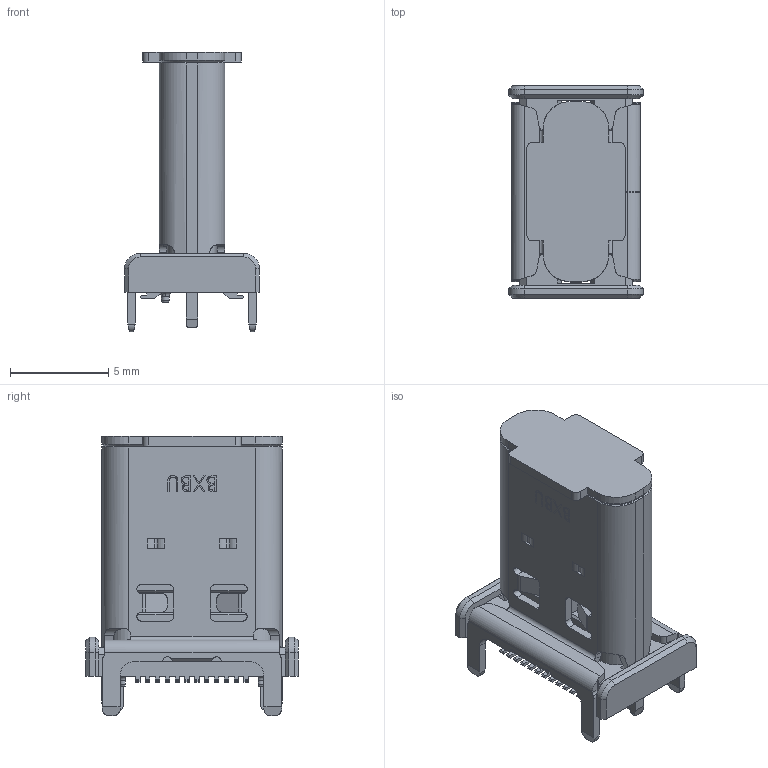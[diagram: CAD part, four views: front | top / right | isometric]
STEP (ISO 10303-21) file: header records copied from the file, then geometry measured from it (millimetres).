
FILE_DESCRIPTION((' '),'2;1');
FILE_NAME( 'U5159-24PN12.0L.stp', '2026-05-12T10:26:12', (' '), ('--- ---'), ' V2026.1 Dec 31 2025', ' 2026 (c)', ' ');
FILE_SCHEMA(('AP242_MANAGED_MODEL_BASED_3D_ENGINEERING_MIM_LF { 1 0 10303 442 1 1 4 }'));
Length unit declared in the file: millimetre
Products named in the file (5): _H12_ASM_ASM_ASM_I-U424120A1-E(2)_I-U424120A1-E; CAP_I-U424120A1-E(2)_I-U424120A1-E; I-U424120A1-E(2)_I-U424120A1-E; U5159-24PN12.0L(2); U5159-24PN12.0L
Assembly tree (4 placements, depth 4):
  U5159-24PN12.0L
    U5159-24PN12.0L(2)
      I-U424120A1-E(2)_I-U424120A1-E
        _H12_ASM_ASM_ASM_I-U424120A1-E(2)_I-U424120A1-E
        CAP_I-U424120A1-E(2)_I-U424120A1-E
Bounding box: 6.84 x 10.8 x 14.2 mm (x, y, z)
Volume: 236.4 mm3; surface area: 1184.9 mm2
Topology: 3 solids, 7 shells, 1473 faces, 4099 edges, 2667 vertices
Faces by surface type: plane 1064, cylinder 341, cone 39, bspline 22, torus 7
Entity records: 50975 total; most frequent: CARTESIAN_POINT 15429, ORIENTED_EDGE 8186, DIRECTION 5949, EDGE_CURVE 4098, VECTOR 2963, LINE 2963, VERTEX_POINT 2667, EDGE_LOOP 1523
